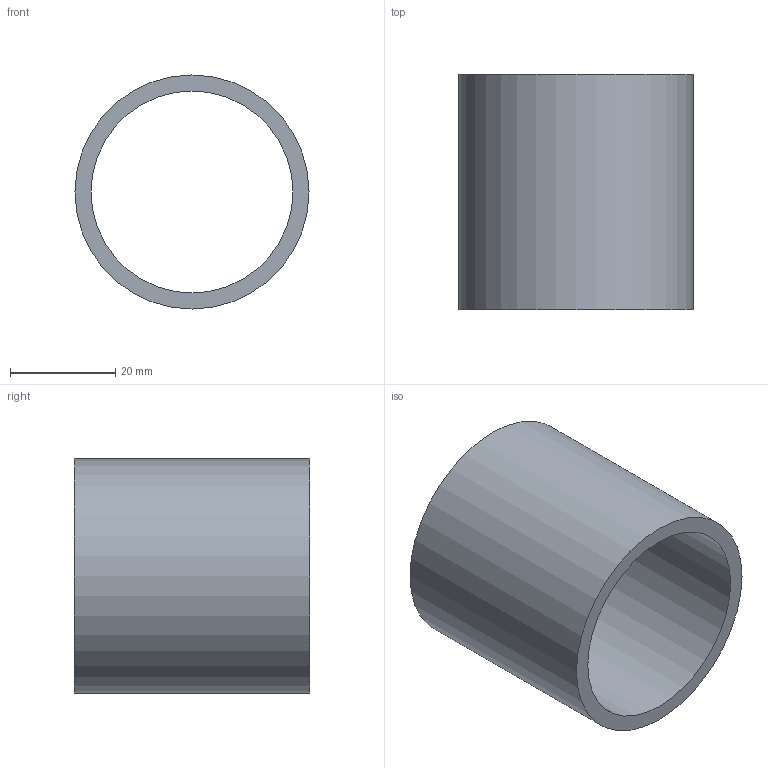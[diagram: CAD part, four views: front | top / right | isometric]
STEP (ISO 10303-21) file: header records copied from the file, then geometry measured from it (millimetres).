
FILE_DESCRIPTION(/* description */ (''),/* implementation_level */ '2;1');
FILE_NAME(/* name */ 'CR-RND-175-120.step',/* time_stamp */ '2025-05-20T11:10:24-07:00',/* author */ (''),/* organization */ (''),/* preprocessor_version */ 'ST-DEVELOPER v20.1',/* originating_system */ 'Autodesk Translation Framework v14.4.0.0',/* authorisation */ '');
FILE_SCHEMA (('AUTOMOTIVE_DESIGN { 1 0 10303 214 3 1 1 }'));
Length unit declared in the file: inch
Products named in the file (1): CR-RND-175-120
Bounding box: 44.45 x 44.7 x 44.45 mm (x, y, z)
Volume: 17722.8 mm3; surface area: 12422 mm2
Topology: 1 solids, 1 shells, 4 faces, 6 edges, 4 vertices
Faces by surface type: cylinder 2, plane 2
Full cylindrical faces by diameter (mm): 38.354 x1, 44.45 x1
Entity records: 133 total; most frequent: DIRECTION 20, CARTESIAN_POINT 15, ORIENTED_EDGE 12, AXIS2_PLACEMENT_3D 9, EDGE_LOOP 6, EDGE_CURVE 6, FACE_OUTER_BOUND 4, CIRCLE 4
